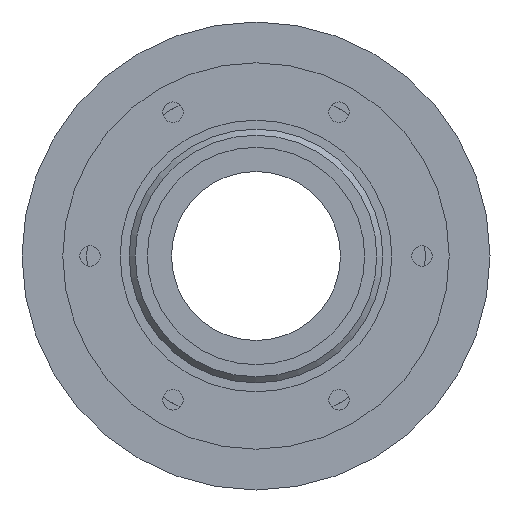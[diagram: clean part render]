
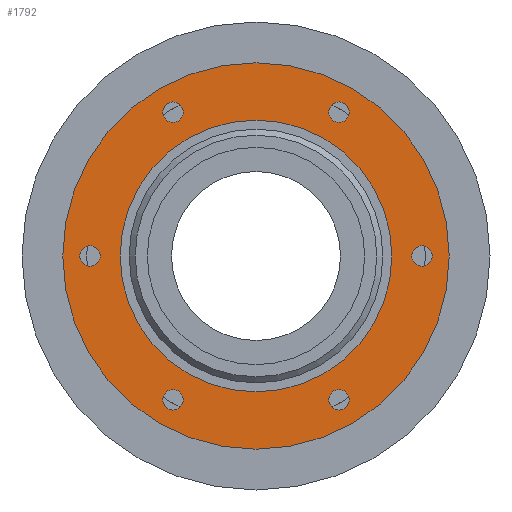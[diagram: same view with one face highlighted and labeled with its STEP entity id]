
A CAD part, left-side view. The second image highlights one B-rep face of the part: STEP entity #1792.
In plain terms, the highlighted planar face has unit normal (-1, 0, 0).
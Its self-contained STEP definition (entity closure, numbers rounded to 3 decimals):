
#23=FACE_BOUND('',#338,.T.);
#24=FACE_BOUND('',#339,.T.);
#25=FACE_BOUND('',#340,.T.);
#26=FACE_BOUND('',#341,.T.);
#27=FACE_BOUND('',#342,.T.);
#28=FACE_BOUND('',#343,.T.);
#29=FACE_BOUND('',#344,.T.);
#112=PLANE('',#2023);
#225=FACE_OUTER_BOUND('',#337,.T.);
#337=EDGE_LOOP('',(#1610));
#338=EDGE_LOOP('',(#1611));
#339=EDGE_LOOP('',(#1612));
#340=EDGE_LOOP('',(#1613));
#341=EDGE_LOOP('',(#1614));
#342=EDGE_LOOP('',(#1615));
#343=EDGE_LOOP('',(#1616));
#344=EDGE_LOOP('',(#1617));
#688=CIRCLE('',#1859,64.);
#689=CIRCLE('',#1861,45.);
#696=CIRCLE('',#1872,3.4);
#700=CIRCLE('',#1877,3.4);
#704=CIRCLE('',#1882,3.4);
#708=CIRCLE('',#1887,3.4);
#712=CIRCLE('',#1892,3.4);
#716=CIRCLE('',#1897,3.4);
#794=VERTEX_POINT('',#2670);
#795=VERTEX_POINT('',#2674);
#802=VERTEX_POINT('',#2696);
#804=VERTEX_POINT('',#2704);
#806=VERTEX_POINT('',#2712);
#808=VERTEX_POINT('',#2720);
#810=VERTEX_POINT('',#2728);
#812=VERTEX_POINT('',#2736);
#963=EDGE_CURVE('',#794,#794,#688,.T.);
#964=EDGE_CURVE('',#795,#795,#689,.T.);
#975=EDGE_CURVE('',#802,#802,#696,.T.);
#980=EDGE_CURVE('',#804,#804,#700,.T.);
#985=EDGE_CURVE('',#806,#806,#704,.T.);
#990=EDGE_CURVE('',#808,#808,#708,.T.);
#995=EDGE_CURVE('',#810,#810,#712,.T.);
#1000=EDGE_CURVE('',#812,#812,#716,.T.);
#1610=ORIENTED_EDGE('',*,*,#963,.F.);
#1611=ORIENTED_EDGE('',*,*,#964,.T.);
#1612=ORIENTED_EDGE('',*,*,#1000,.T.);
#1613=ORIENTED_EDGE('',*,*,#995,.T.);
#1614=ORIENTED_EDGE('',*,*,#990,.T.);
#1615=ORIENTED_EDGE('',*,*,#985,.T.);
#1616=ORIENTED_EDGE('',*,*,#980,.T.);
#1617=ORIENTED_EDGE('',*,*,#975,.T.);
#1792=ADVANCED_FACE('',(#225,#23,#24,#25,#26,#27,#28,#29),#112,.T.);
#1859=AXIS2_PLACEMENT_3D('',#2672,#2118,#2119);
#1861=AXIS2_PLACEMENT_3D('',#2675,#2122,#2123);
#1872=AXIS2_PLACEMENT_3D('',#2697,#2148,#2149);
#1877=AXIS2_PLACEMENT_3D('',#2705,#2159,#2160);
#1882=AXIS2_PLACEMENT_3D('',#2713,#2170,#2171);
#1887=AXIS2_PLACEMENT_3D('',#2721,#2181,#2182);
#1892=AXIS2_PLACEMENT_3D('',#2729,#2192,#2193);
#1897=AXIS2_PLACEMENT_3D('',#2737,#2203,#2204);
#2023=AXIS2_PLACEMENT_3D('',#3099,#2578,#2579);
#2118=DIRECTION('center_axis',(1.,0.,0.));
#2119=DIRECTION('ref_axis',(0.,0.,-1.));
#2122=DIRECTION('center_axis',(1.,0.,0.));
#2123=DIRECTION('ref_axis',(0.,0.,-1.));
#2148=DIRECTION('center_axis',(1.,0.,0.));
#2149=DIRECTION('ref_axis',(0.,0.,-1.));
#2159=DIRECTION('center_axis',(1.,0.,0.));
#2160=DIRECTION('ref_axis',(0.,0.,-1.));
#2170=DIRECTION('center_axis',(1.,0.,0.));
#2171=DIRECTION('ref_axis',(0.,0.,-1.));
#2181=DIRECTION('center_axis',(1.,0.,0.));
#2182=DIRECTION('ref_axis',(0.,0.,-1.));
#2192=DIRECTION('center_axis',(1.,0.,0.));
#2193=DIRECTION('ref_axis',(0.,0.,-1.));
#2203=DIRECTION('center_axis',(1.,0.,0.));
#2204=DIRECTION('ref_axis',(0.,0.,-1.));
#2578=DIRECTION('center_axis',(-1.,0.,0.));
#2579=DIRECTION('ref_axis',(0.,0.,1.));
#2670=CARTESIAN_POINT('',(21.,0.,64.));
#2672=CARTESIAN_POINT('Origin',(21.,0.,0.));
#2674=CARTESIAN_POINT('',(21.,0.,45.));
#2675=CARTESIAN_POINT('Origin',(21.,0.,0.));
#2696=CARTESIAN_POINT('',(21.,-55.,3.4));
#2697=CARTESIAN_POINT('Origin',(21.,-55.,0.));
#2704=CARTESIAN_POINT('',(21.,-27.5,-44.231));
#2705=CARTESIAN_POINT('Origin',(21.,-27.5,-47.631));
#2712=CARTESIAN_POINT('',(21.,27.5,-44.231));
#2713=CARTESIAN_POINT('Origin',(21.,27.5,-47.631));
#2720=CARTESIAN_POINT('',(21.,55.,3.4));
#2721=CARTESIAN_POINT('Origin',(21.,55.,0.));
#2728=CARTESIAN_POINT('',(21.,27.5,51.031));
#2729=CARTESIAN_POINT('Origin',(21.,27.5,47.631));
#2736=CARTESIAN_POINT('',(21.,-27.5,51.031));
#2737=CARTESIAN_POINT('Origin',(21.,-27.5,47.631));
#3099=CARTESIAN_POINT('Origin',(21.,0.,-54.5));
